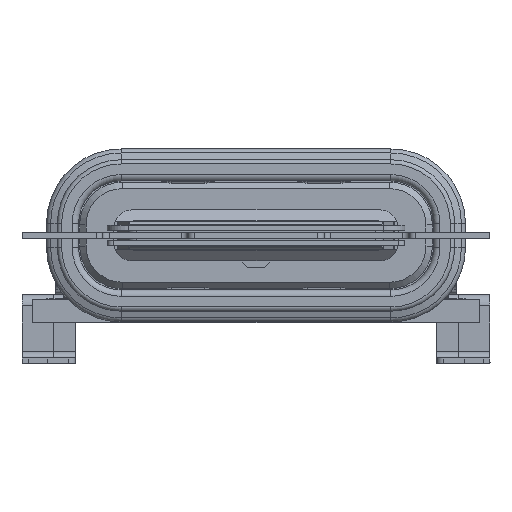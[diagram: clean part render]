
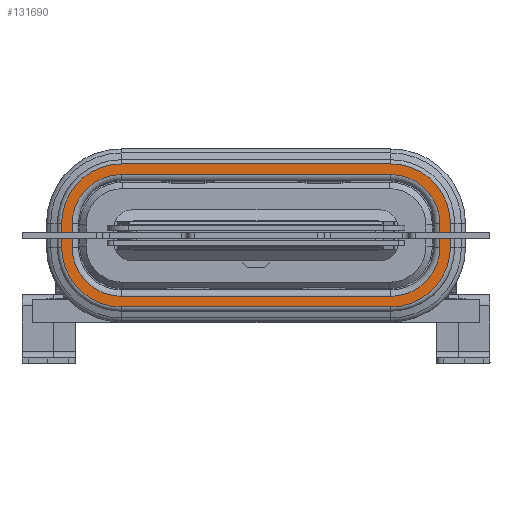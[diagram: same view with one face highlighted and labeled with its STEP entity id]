
A CAD part, front view. The second image highlights one B-rep face of the part: STEP entity #131690.
In plain terms, the highlighted planar face has unit normal (0, -1, 0) as drawn and (0, 0, 1) by its records, which use the part's own axes.
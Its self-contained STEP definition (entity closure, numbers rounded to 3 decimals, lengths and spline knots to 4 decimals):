
#127363=CARTESIAN_POINT('',(-3.17,0.28,0.));
#127364=DIRECTION('',(0.,0.,1.));
#127365=DIRECTION('',(0.,1.,0.));
#127366=AXIS2_PLACEMENT_3D('',#127363,#127364,#127365);
#127371=DIRECTION('',(-1.,0.,0.));
#127372=VECTOR('',#127371,6.34);
#127373=CARTESIAN_POINT('',(3.17,1.68,0.));
#127374=LINE('',#127373,#127372);
#127378=CARTESIAN_POINT('',(3.17,0.28,0.));
#127379=DIRECTION('',(0.,0.,1.));
#127380=DIRECTION('',(1.,0.,0.));
#127381=AXIS2_PLACEMENT_3D('',#127378,#127379,#127380);
#127386=DIRECTION('',(0.,1.,0.));
#127387=VECTOR('',#127386,0.56);
#127388=CARTESIAN_POINT('',(4.57,-0.28,0.));
#127389=LINE('',#127388,#127387);
#127393=CARTESIAN_POINT('',(3.17,-0.28,0.));
#127394=DIRECTION('',(0.,0.,1.));
#127395=DIRECTION('',(0.,-1.,0.));
#127396=AXIS2_PLACEMENT_3D('',#127393,#127394,#127395);
#127401=DIRECTION('',(1.,0.,0.));
#127402=VECTOR('',#127401,6.34);
#127403=CARTESIAN_POINT('',(-3.17,-1.68,0.));
#127404=LINE('',#127403,#127402);
#127408=CARTESIAN_POINT('',(-3.17,-0.28,0.));
#127409=DIRECTION('',(0.,0.,1.));
#127410=DIRECTION('',(-1.,0.,0.));
#127411=AXIS2_PLACEMENT_3D('',#127408,#127409,#127410);
#127416=DIRECTION('',(0.,-1.,0.));
#127417=VECTOR('',#127416,0.56);
#127418=CARTESIAN_POINT('',(-4.57,0.28,0.));
#127419=LINE('',#127418,#127417);
#127423=CARTESIAN_POINT('',(3.17,0.28,0.));
#127424=DIRECTION('',(0.,0.,-1.));
#127425=DIRECTION('',(0.,1.,0.));
#127426=AXIS2_PLACEMENT_3D('',#127423,#127424,#127425);
#127431=DIRECTION('',(1.,0.,0.));
#127432=VECTOR('',#127431,6.34);
#127433=CARTESIAN_POINT('',(-3.17,1.43,0.));
#127434=LINE('',#127433,#127432);
#127438=CARTESIAN_POINT('',(-3.17,0.28,0.));
#127439=DIRECTION('',(0.,0.,-1.));
#127440=DIRECTION('',(-1.,0.,0.));
#127441=AXIS2_PLACEMENT_3D('',#127438,#127439,#127440);
#127446=DIRECTION('',(0.,1.,0.));
#127447=VECTOR('',#127446,0.56);
#127448=CARTESIAN_POINT('',(-4.32,-0.28,0.));
#127449=LINE('',#127448,#127447);
#127453=CARTESIAN_POINT('',(-3.17,-0.28,0.));
#127454=DIRECTION('',(0.,0.,-1.));
#127455=DIRECTION('',(0.,-1.,0.));
#127456=AXIS2_PLACEMENT_3D('',#127453,#127454,#127455);
#127461=DIRECTION('',(-1.,0.,0.));
#127462=VECTOR('',#127461,6.34);
#127463=CARTESIAN_POINT('',(3.17,-1.43,0.));
#127464=LINE('',#127463,#127462);
#127468=CARTESIAN_POINT('',(3.17,-0.28,0.));
#127469=DIRECTION('',(0.,0.,-1.));
#127470=DIRECTION('',(1.,0.,0.));
#127471=AXIS2_PLACEMENT_3D('',#127468,#127469,#127470);
#127476=DIRECTION('',(0.,-1.,0.));
#127477=VECTOR('',#127476,0.56);
#127478=CARTESIAN_POINT('',(4.32,0.28,0.));
#127479=LINE('',#127478,#127477);
#131101=CARTESIAN_POINT('',(-3.17,1.68,0.));
#131102=CARTESIAN_POINT('',(-4.57,0.28,0.));
#131103=VERTEX_POINT('',#131101);
#131104=VERTEX_POINT('',#131102);
#131109=CARTESIAN_POINT('',(-4.57,-0.28,0.));
#131110=VERTEX_POINT('',#131109);
#131113=CARTESIAN_POINT('',(-3.17,-1.68,0.));
#131114=VERTEX_POINT('',#131113);
#131117=CARTESIAN_POINT('',(3.17,-1.68,0.));
#131118=VERTEX_POINT('',#131117);
#131121=CARTESIAN_POINT('',(4.57,-0.28,0.));
#131122=VERTEX_POINT('',#131121);
#131125=CARTESIAN_POINT('',(4.57,0.28,0.));
#131126=VERTEX_POINT('',#131125);
#131129=CARTESIAN_POINT('',(3.17,1.68,0.));
#131130=VERTEX_POINT('',#131129);
#131165=CARTESIAN_POINT('',(3.17,1.43,0.));
#131166=CARTESIAN_POINT('',(4.32,0.28,0.));
#131167=VERTEX_POINT('',#131165);
#131168=VERTEX_POINT('',#131166);
#131173=CARTESIAN_POINT('',(4.32,-0.28,0.));
#131174=VERTEX_POINT('',#131173);
#131177=CARTESIAN_POINT('',(3.17,-1.43,0.));
#131178=VERTEX_POINT('',#131177);
#131181=CARTESIAN_POINT('',(-3.17,-1.43,0.));
#131182=VERTEX_POINT('',#131181);
#131185=CARTESIAN_POINT('',(-4.32,-0.28,0.));
#131186=VERTEX_POINT('',#131185);
#131189=CARTESIAN_POINT('',(-4.32,0.28,0.));
#131190=VERTEX_POINT('',#131189);
#131193=CARTESIAN_POINT('',(-3.17,1.43,0.));
#131194=VERTEX_POINT('',#131193);
#131650=CARTESIAN_POINT('',(0.,1.555,0.));
#131651=DIRECTION('',(0.,0.,1.));
#131652=DIRECTION('',(1.,0.,0.));
#131653=AXIS2_PLACEMENT_3D('',#131650,#131651,#131652);
#131654=PLANE('',#131653);
#131656=ORIENTED_EDGE('',*,*,#131655,.F.);
#131657=ORIENTED_EDGE('',*,*,#131640,.F.);
#131659=ORIENTED_EDGE('',*,*,#131658,.F.);
#131661=ORIENTED_EDGE('',*,*,#131660,.F.);
#131663=ORIENTED_EDGE('',*,*,#131662,.F.);
#131665=ORIENTED_EDGE('',*,*,#131664,.F.);
#131667=ORIENTED_EDGE('',*,*,#131666,.F.);
#131669=ORIENTED_EDGE('',*,*,#131668,.F.);
#131670=EDGE_LOOP('',(#131656,#131657,#131659,#131661,#131663,#131665,#131667,
#131669));
#131671=FACE_OUTER_BOUND('',#131670,.F.);
#131673=ORIENTED_EDGE('',*,*,#131672,.F.);
#131675=ORIENTED_EDGE('',*,*,#131674,.F.);
#131677=ORIENTED_EDGE('',*,*,#131676,.F.);
#131679=ORIENTED_EDGE('',*,*,#131678,.F.);
#131681=ORIENTED_EDGE('',*,*,#131680,.F.);
#131683=ORIENTED_EDGE('',*,*,#131682,.F.);
#131685=ORIENTED_EDGE('',*,*,#131684,.F.);
#131687=ORIENTED_EDGE('',*,*,#131686,.F.);
#131688=EDGE_LOOP('',(#131673,#131675,#131677,#131679,#131681,#131683,#131685,
#131687));
#131689=FACE_BOUND('',#131688,.F.);
#127367=CIRCLE('',#127366,1.4);
#127382=CIRCLE('',#127381,1.4);
#127397=CIRCLE('',#127396,1.4);
#127412=CIRCLE('',#127411,1.4);
#127427=CIRCLE('',#127426,1.15);
#127442=CIRCLE('',#127441,1.15);
#127457=CIRCLE('',#127456,1.15);
#127472=CIRCLE('',#127471,1.15);
#131640=EDGE_CURVE('',#131130,#131103,#127374,.T.);
#131655=EDGE_CURVE('',#131103,#131104,#127367,.T.);
#131658=EDGE_CURVE('',#131126,#131130,#127382,.T.);
#131660=EDGE_CURVE('',#131122,#131126,#127389,.T.);
#131662=EDGE_CURVE('',#131118,#131122,#127397,.T.);
#131664=EDGE_CURVE('',#131114,#131118,#127404,.T.);
#131666=EDGE_CURVE('',#131110,#131114,#127412,.T.);
#131668=EDGE_CURVE('',#131104,#131110,#127419,.T.);
#131672=EDGE_CURVE('',#131167,#131168,#127427,.T.);
#131674=EDGE_CURVE('',#131194,#131167,#127434,.T.);
#131676=EDGE_CURVE('',#131190,#131194,#127442,.T.);
#131678=EDGE_CURVE('',#131186,#131190,#127449,.T.);
#131680=EDGE_CURVE('',#131182,#131186,#127457,.T.);
#131682=EDGE_CURVE('',#131178,#131182,#127464,.T.);
#131684=EDGE_CURVE('',#131174,#131178,#127472,.T.);
#131686=EDGE_CURVE('',#131168,#131174,#127479,.T.);
#131690=ADVANCED_FACE('',(#131671,#131689),#131654,.T.);
